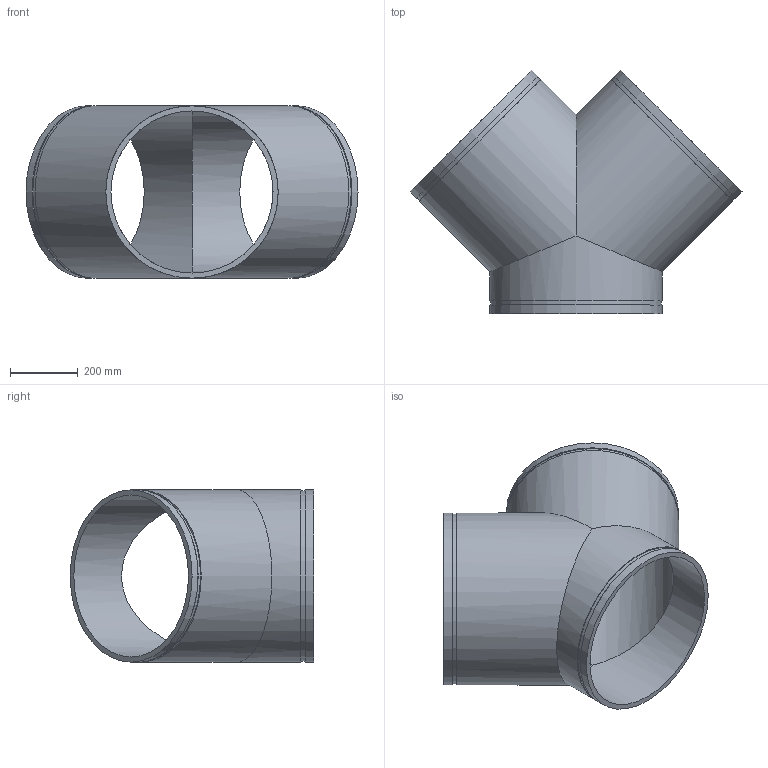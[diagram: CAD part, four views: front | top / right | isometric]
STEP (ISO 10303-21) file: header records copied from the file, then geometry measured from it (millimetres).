
FILE_DESCRIPTION(/* description */ ('This is default description.','CAx-IF Rec.Pracs.---Representation and Presentation of Product Manufacturing Information (PMI)---4.0---2014-10-13'),/* implementation_level */ '2;1');
FILE_NAME(/* name */ 'C:\Users\kkamble\AppData\Roaming\Autodesk\ApplicationPlugins\Back Up\Victaulic_IPS-Tee- Wye_ No 33 SWS (OGS)\Victaulic_IPS-Tee- Wye_ No 33 SWS (OGS)_20.stp',/* time_stamp */ '2020-09-16T22:08:53+06:00',/* author */ ('cgray'),/* organization */ ('Victaulic'),/* preprocessor_version */ 'ST-DEVELOPER v17.2',/* originating_system */ 'Autodesk Inventor 2019',/* authorisation */ '');
FILE_SCHEMA (('AP242_MANAGED_MODEL_BASED_3D_ENGINEERING_MIM_LF { 1 0 10303 442 1 1 4 }'));
Length unit declared in the file: inch
Products named in the file (1): 33 SWS-20.0
Bounding box: 978.85 x 718.02 x 508 mm (x, y, z)
Volume: 18910127 mm3; surface area: 2628515.2 mm2
Topology: 1 solids, 1 shells, 21 faces, 48 edges, 34 vertices
Faces by surface type: cylinder 12, plane 9
Full cylindrical faces by diameter (mm): 477.876 x3, 502.437 x3, 508 x6
Entity records: 787 total; most frequent: DIRECTION 154, CARTESIAN_POINT 121, ORIENTED_EDGE 96, AXIS2_PLACEMENT_3D 71, EDGE_CURVE 48, VERTEX_POINT 34, EDGE_LOOP 30, CIRCLE 26
